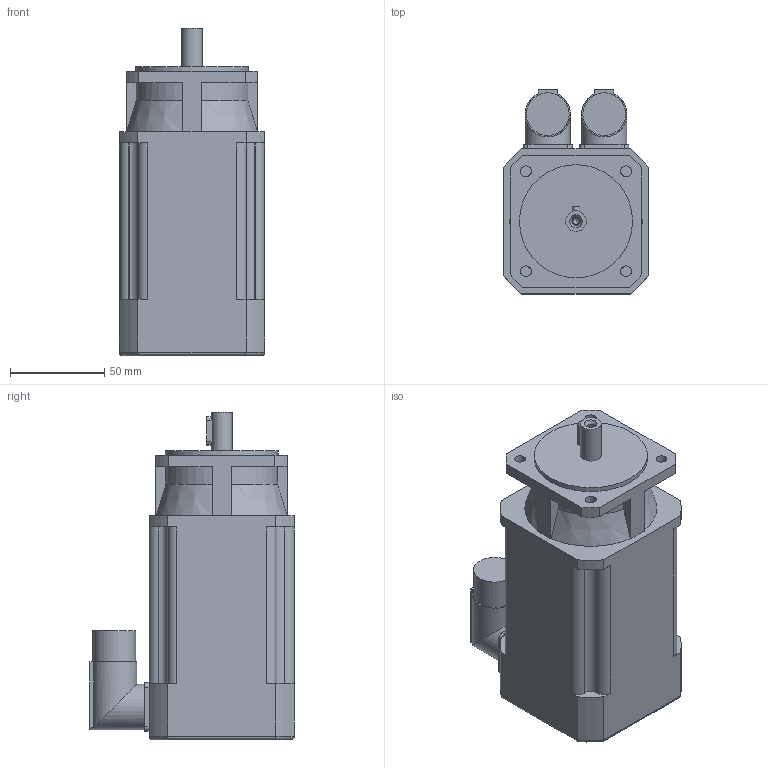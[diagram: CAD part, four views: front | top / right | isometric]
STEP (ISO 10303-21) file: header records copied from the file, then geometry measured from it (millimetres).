
FILE_DESCRIPTION(/* description */ (''),/* implementation_level */ '2;1');
FILE_NAME(/* name */ '\\Lafnas01\disegni\Archivi Lafert\3D\CAD 3D\MODELLI\Assiemi clienti\Serad\Modelli 3D Serad\B36I\Resolver\Res Without Brake\B36E2Ixx6A052033.ipt.stp',/* time_stamp */ '2015-09-07T10:49:14+02:00',/* author */ ('Pastrello Ylenia'),/* organization */ (''),/* preprocessor_version */ 'ST-DEVELOPER v15.6',/* originating_system */ 'Autodesk Inventor 2015',/* authorisation */ '');
FILE_SCHEMA (('AUTOMOTIVE_DESIGN { 1 0 10303 214 3 1 1 }'));
Length unit declared in the file: millimetre
Products named in the file (1): B36E2Ixx6A052033
Bounding box: 77 x 108.5 x 174 mm (x, y, z)
Volume: 842383 mm3; surface area: 66733 mm2
Topology: 1 solids, 1 shells, 137 faces, 372 edges, 244 vertices
Faces by surface type: plane 66, cylinder 56, cone 11, torus 4
Full cylindrical faces by diameter (mm): 3.242 x1, 4.3 x1, 5.8 x4, 11 x1, 22.7 x2, 24 x2, 60 x1
Entity records: 4352 total; most frequent: CARTESIAN_POINT 890, DIRECTION 726, ORIENTED_EDGE 702, EDGE_CURVE 351, AXIS2_PLACEMENT_3D 259, VERTEX_POINT 239, LINE 208, VECTOR 208
